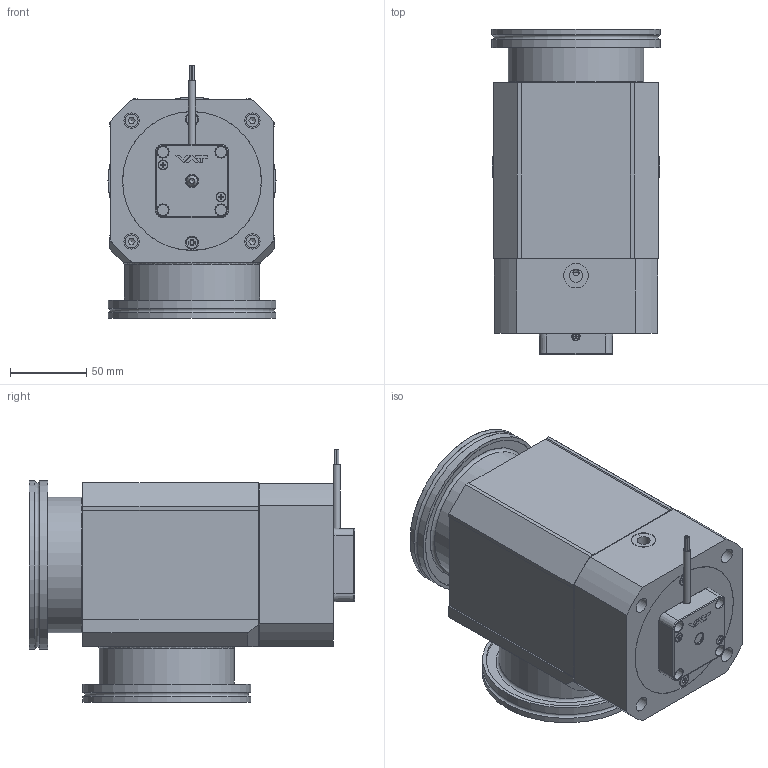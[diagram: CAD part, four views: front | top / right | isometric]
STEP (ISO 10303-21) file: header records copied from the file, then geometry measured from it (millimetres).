
FILE_DESCRIPTION(/* description */ (''),/* implementation_level */ '2;1');
FILE_NAME(/* name */ '1168350754_203.stp',/* time_stamp */ '2019-04-12T07:33:06+02:00',/* author */ (''),/* organization */ (''),/* preprocessor_version */ 'ST-DEVELOPER v16',/* originating_system */ 'SIEMENS PLM Software NX 11.0',/* authorisation */ '');
FILE_SCHEMA (('AP203_CONFIGURATION_CONTROLLED_3D_DESIGN_OF_MECHANICAL_PARTS_AND_ASSEMBLIES_MIM_LF { 1 0 10303 403 2 1 2}'));
Length unit declared in the file: millimetre
Products named in the file (11): 239888_6.1; 233359; 236204_1.1; N-6013-443.2; 259415.2; 243267.7; 415266; 900594; 224796.1; 402922; 977237
Assembly tree (15 placements, depth 3):
  977237
    224796.1  x4
    402922
      236204_1.1  x2
      233359
      239888_6.1
    900594
    415266
    243267.7
    259415.2
    N-6013-443.2  x2
Bounding box: 110.11 x 213 x 165.57 mm (x, y, z)
Volume: 1431100.2 mm3; surface area: 394457.6 mm2
Topology: 23 solids, 23 shells, 679 faces, 1647 edges, 1068 vertices
Faces by surface type: plane 393, cylinder 159, cone 72, torus 38, bspline 17
Full cylindrical faces by diameter (mm): 1.4 x8, 3 x6, 3.1 x1, 3.3 x2, 4 x3, 4.16 x4, 4.2 x12, 4.5 x2, 4.6 x2, 4.7 x2, 5 x8, 5.5 x4, 5.6 x2, 7 x1, 7.4 x1, 7.5 x2, 8 x1, 8.5 x4, 8.566 x1, 9 x1, 10 x4, 10.1 x1, 12 x1, 15.975 x3, 16 x1, 16.5 x2, 18.18 x1, 20.45 x1, 26 x1, 30.5 x1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
Entity records: 18381 total; most frequent: CARTESIAN_POINT 3683, DIRECTION 2750, ORIENTED_EDGE 2450, EDGE_CURVE 1225, AXIS2_PLACEMENT_3D 1010, VERTEX_POINT 901, EDGE_LOOP 858, LINE 730
